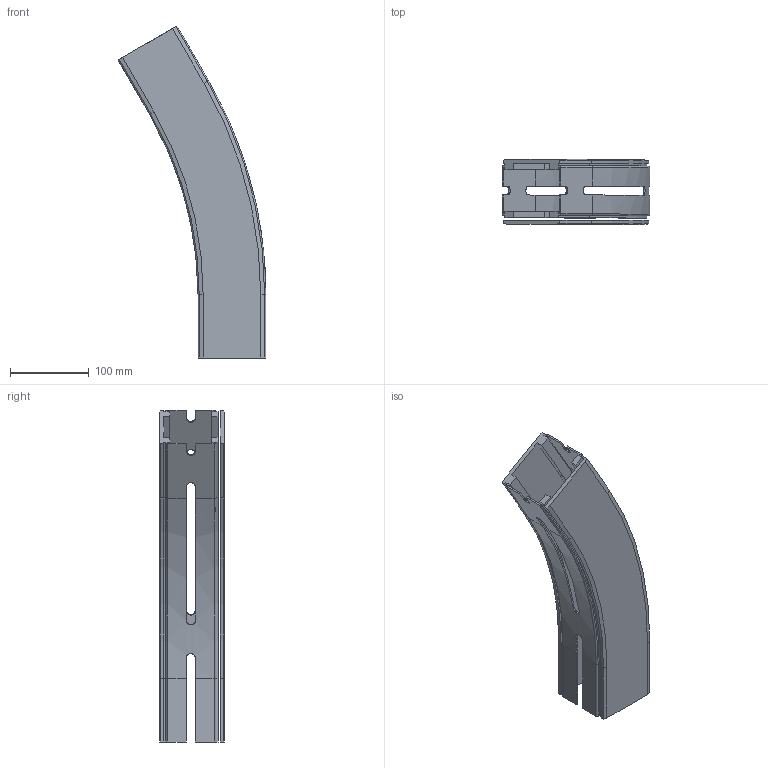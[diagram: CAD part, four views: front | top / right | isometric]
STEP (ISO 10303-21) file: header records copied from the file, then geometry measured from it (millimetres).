
FILE_DESCRIPTION(/* description */ ('GLIDKURVA SERIE 530'),/* implementation_level */ '2;1');
FILE_NAME(/* name */ '530-5375+830-2000-01.stp',/* time_stamp */ '2022-09-20T15:17:03+02:00',/* author */ ('Mathias.Dore'),/* organization */ ('CARRYLINE'),/* preprocessor_version */ 'ST-DEVELOPER v19.2',/* originating_system */ 'Autodesk Inventor 2023',/* authorisation */ '');
FILE_SCHEMA (('AUTOMOTIVE_DESIGN { 1 0 10303 214 3 1 1 }'));
Length unit declared in the file: millimetre
Products named in the file (1): 530-5375+830-2000-01
Bounding box: 187.23 x 82 x 420.78 mm (x, y, z)
Volume: 611354.8 mm3; surface area: 294151.1 mm2
Topology: 2 solids, 2 shells, 171 faces, 482 edges, 316 vertices
Faces by surface type: plane 113, cylinder 32, bspline 18, torus 4, cone 4
Entity records: 5865 total; most frequent: CARTESIAN_POINT 1376, ORIENTED_EDGE 964, DIRECTION 842, EDGE_CURVE 482, LINE 358, VECTOR 358, VERTEX_POINT 316, AXIS2_PLACEMENT_3D 242
